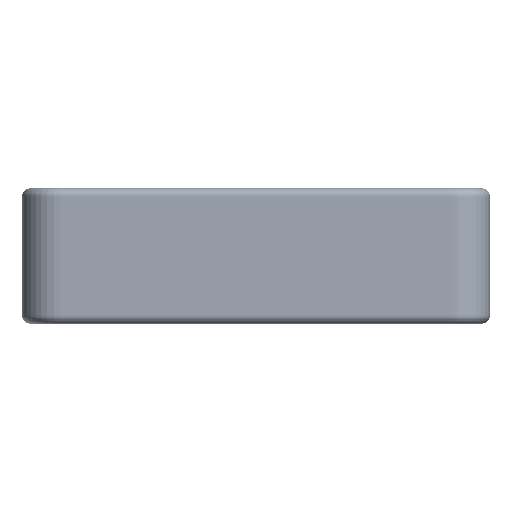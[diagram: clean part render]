
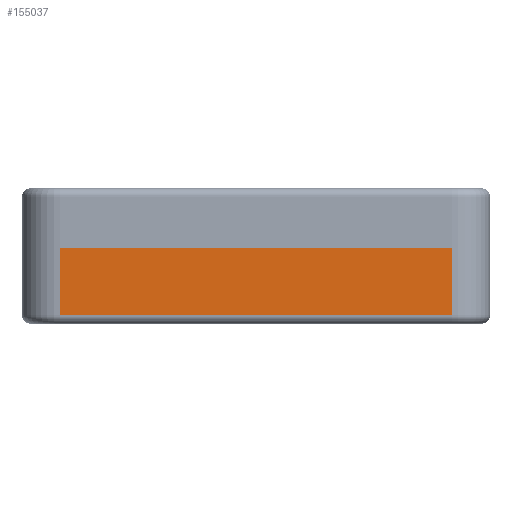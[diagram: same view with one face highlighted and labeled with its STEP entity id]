
A CAD part, front view. The second image highlights one B-rep face of the part: STEP entity #155037.
In plain terms, the highlighted planar face has unit normal (0, -1, 0).
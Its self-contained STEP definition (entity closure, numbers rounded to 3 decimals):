
#1804 = LINE ( 'NONE', #147369, #160264 ) ;
#6281 = LINE ( 'NONE', #78153, #183727 ) ;
#7572 = VERTEX_POINT ( 'NONE', #94615 ) ;
#14417 = DIRECTION ( 'NONE',  ( 0., 0., 1. ) ) ;
#14596 = VECTOR ( 'NONE', #84606, 1000. ) ;
#18718 = ORIENTED_EDGE ( 'NONE', *, *, #133036, .T. ) ;
#20145 = CARTESIAN_POINT ( 'NONE',  ( 214.4, -157.6, -6.8 ) ) ;
#23013 = DIRECTION ( 'NONE',  ( 0., -1., 0. ) ) ;
#24236 = VERTEX_POINT ( 'NONE', #144258 ) ;
#33761 = FACE_OUTER_BOUND ( 'NONE', #149974, .T. ) ;
#35550 = DIRECTION ( 'NONE',  ( 0., 0., 1. ) ) ;
#38101 = VERTEX_POINT ( 'NONE', #148636 ) ;
#38987 = CARTESIAN_POINT ( 'NONE',  ( 260.4, -157.6, -5.8 ) ) ;
#53222 = EDGE_CURVE ( 'NONE', #24236, #38101, #1804, .T. ) ;
#64690 = LINE ( 'NONE', #152015, #174525 ) ;
#78153 = CARTESIAN_POINT ( 'NONE',  ( 214.4, -157.6, 2.1 ) ) ;
#84606 = DIRECTION ( 'NONE',  ( 1., 0., 0. ) ) ;
#85552 = LINE ( 'NONE', #38987, #14596 ) ;
#94615 = CARTESIAN_POINT ( 'NONE',  ( 214.4, -157.6, 2.1 ) ) ;
#102087 = AXIS2_PLACEMENT_3D ( 'NONE', #20145, #23013, #124027 ) ;
#105932 = VERTEX_POINT ( 'NONE', #185572 ) ;
#120637 = ORIENTED_EDGE ( 'NONE', *, *, #53222, .T. ) ;
#120850 = DIRECTION ( 'NONE',  ( 1., 0., 0. ) ) ;
#124027 = DIRECTION ( 'NONE',  ( 1., 0., 0. ) ) ;
#127233 = EDGE_CURVE ( 'NONE', #105932, #7572, #64690, .T. ) ;
#133036 = EDGE_CURVE ( 'NONE', #105932, #24236, #85552, .T. ) ;
#137576 = ORIENTED_EDGE ( 'NONE', *, *, #127233, .F. ) ;
#144258 = CARTESIAN_POINT ( 'NONE',  ( 260.4, -157.6, -5.8 ) ) ;
#147369 = CARTESIAN_POINT ( 'NONE',  ( 260.4, -157.6, -6.8 ) ) ;
#148636 = CARTESIAN_POINT ( 'NONE',  ( 260.4, -157.6, 2.1 ) ) ;
#149974 = EDGE_LOOP ( 'NONE', ( #120637, #154206, #137576, #18718 ) ) ;
#152015 = CARTESIAN_POINT ( 'NONE',  ( 214.4, -157.6, -6.8 ) ) ;
#153103 = PLANE ( 'NONE',  #102087 ) ;
#154206 = ORIENTED_EDGE ( 'NONE', *, *, #191761, .F. ) ;
#155037 = ADVANCED_FACE ( 'NONE', ( #33761 ), #153103, .T. ) ;
#160264 = VECTOR ( 'NONE', #14417, 1000. ) ;
#174525 = VECTOR ( 'NONE', #35550, 1000. ) ;
#183727 = VECTOR ( 'NONE', #120850, 1000. ) ;
#185572 = CARTESIAN_POINT ( 'NONE',  ( 214.4, -157.6, -5.8 ) ) ;
#191761 = EDGE_CURVE ( 'NONE', #7572, #38101, #6281, .T. ) ;
